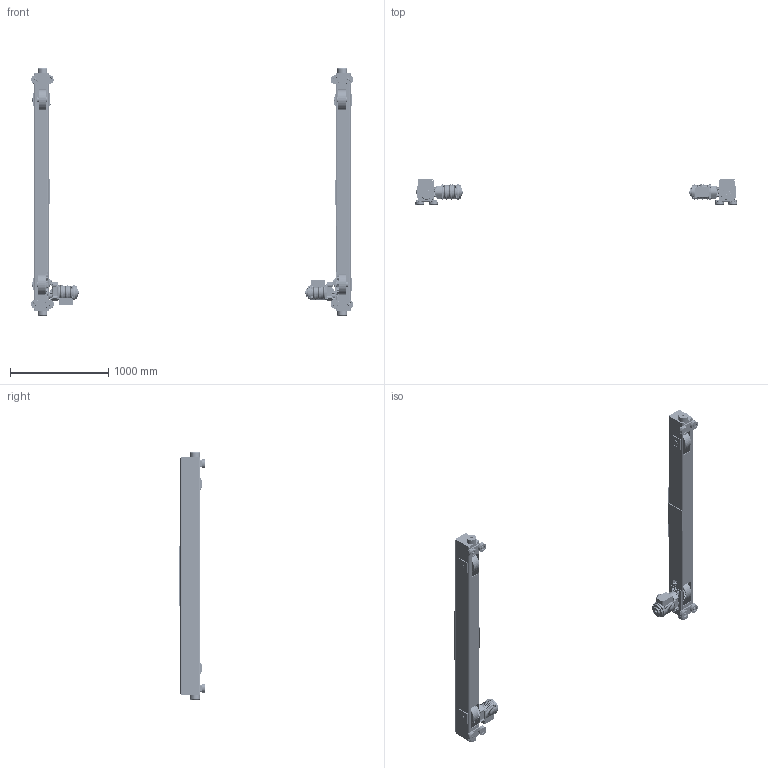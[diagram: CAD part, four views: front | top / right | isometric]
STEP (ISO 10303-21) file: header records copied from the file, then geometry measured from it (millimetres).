
FILE_DESCRIPTION (( 'STEP AP214' ), '1' );
FILE_NAME ('TMS-3-0560.STEP', '2026-08-12T19:56:46', ( '' ), ( '' ), 'SwSTEP 2.0', 'SolidWorks 2026', '' );
FILE_SCHEMA (( 'AUTOMOTIVE_DESIGN' ));
Length unit declared in the file: inch
Products named in the file (71): N6QO4501101; N6QO450E9102; G1JE040S9701; G1JE040S9310; 6244513; 6244510; 62587; 9012707_9012707; 9093327_9093327; 6244503; T800-600-004_94.4375; 6244517; N6QO4501102; 9091272_9091272; 6232404; 6244508; 9091256_B18.3.1M - 6 x 1.0 x 50 Hex SHCS -- 24CHX; 9000709; 6240817X_6240817B; 6244501; 6240820; G1JM040S_ROTATED 180 DEGREES; 6240805X_6240805A; 9012709_Rectangular section spring washer BS 4464 - 16 (Type B); 6240818; 9012711_9012711; 62437_0550-0560 - 25# RAIL; G1JE025S9604; G1JE040S9301; N6QO310E9108_N6QO3101108 DOMESTIC; G1JE040S9503; N6QO375207; 6240817X_6240817A; 9091250_9091250; G1JE040S9707; G1JE040S9303; N6QO450E91311; G1JE025S9610; TMS-3-0560; 62435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
Assembly tree (254 placements, depth 4):
  TMS-3-0560
    62436_0550-0560 - 25# RAIL
      62434
        T800-600-004_94.4375
        6240820
        6240818
        6244510
        6244510
        6244510
      6244509  x2
      6244508
      6240817X_6240817A
        6240805X_6240805A
        6232305  x2
      6240817X_6240817B
        6240805X_6240805B
        6232305  x2
      6244519
      6244501
      6244502
      6244503
    62437_0550-0560 - 25# RAIL
      62435
        T800-600-004_94.4375
        6240820
        6240818
        6244510
        6244510
        6244510
      6244509  x2
      6244508
      6240817X_6240817A  x2
        6240805X_6240805A
        6232305
      6244519
      6244501
      6244502
      6244503
    N6QO3101108_N6QO3101108  x8
      N6QO310E9108_N6QO3101108 DOMESTIC
      9047252_9047252
      9000605
    6232404  x8
    9047125_B27.7M - 3AM1-23  x8
    N6QO375207  x4
    9012514_9012514  x4
    9012711_9012711  x20
    9093101_9093101  x4
    6244517  x4
    6244513  x4
    9093327_9093327  x8
    N6QO4501101  x2
      N6QO450E91013
      N6QO450E91311
      9000709
      9091272_9091272
      9012711_9012711
    N6QO4501102  x2
      N6QO450E9102
      9000709
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Bounding box: 3278.67 x 261.94 x 2514.76 mm (x, y, z)
Volume: 44761711.5 mm3; surface area: 10946773.6 mm2
Topology: 274 solids, 338 shells, 16746 faces, 43008 edges, 27648 vertices
Faces by surface type: plane 9018, cylinder 3678, bspline 2074, torus 898, cone 866, sphere 212
Entity records: 188598 total; most frequent: CARTESIAN_POINT 78933, ORIENTED_EDGE 22130, DIRECTION 19871, EDGE_CURVE 11069, AXIS2_PLACEMENT_3D 7409, VERTEX_POINT 7072, LINE 5053, VECTOR 5053
